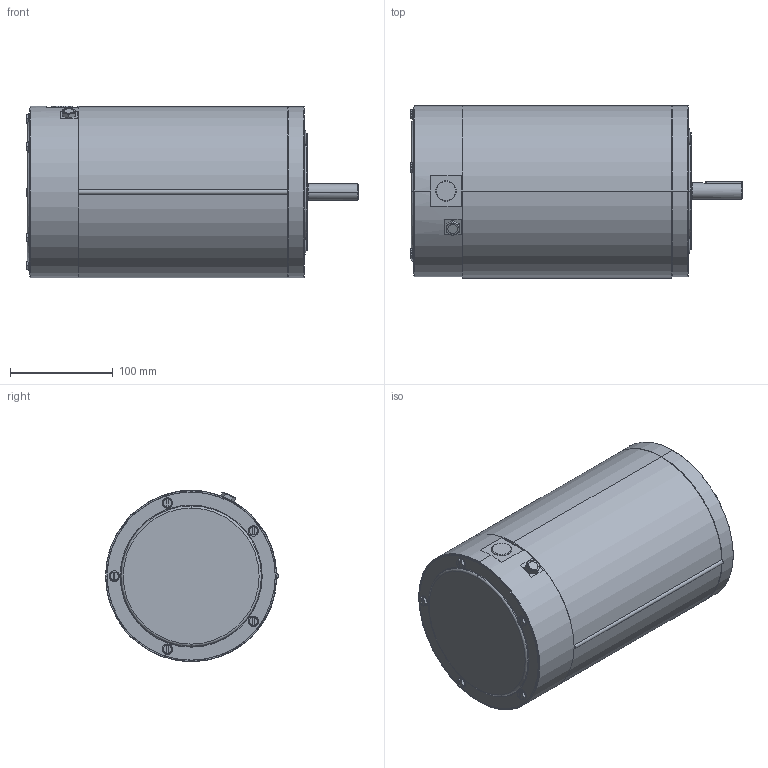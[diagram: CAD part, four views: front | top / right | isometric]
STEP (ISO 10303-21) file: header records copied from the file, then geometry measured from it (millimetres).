
FILE_DESCRIPTION (( 'STEP AP203' ), '1' );
FILE_NAME ('034992-800_Rev02.STEP', '2017-08-08T10:52:08', ( 'admin' ), ( '' ), 'SwSTEP 2.0', 'SolidWorks 2015', '' );
FILE_SCHEMA (( 'CONFIG_CONTROL_DESIGN' ));
Length unit declared in the file: inch
Products named in the file (1): 034992-800_Rev02
Bounding box: 322.49 x 168.07 x 166.64 mm (x, y, z)
Volume: 858219.9 mm3; surface area: 525714.4 mm2
Topology: 21 solids, 21 shells, 1591 faces, 3662 edges, 2117 vertices
Faces by surface type: cylinder 523, torus 308, plane 300, bspline 217, cone 192, sphere 51
Entity records: 56118 total; most frequent: CARTESIAN_POINT 21291, DIRECTION 7511, ORIENTED_EDGE 7188, EDGE_CURVE 3594, AXIS2_PLACEMENT_3D 3182, VERTEX_POINT 2113, CIRCLE 1807, EDGE_LOOP 1713
